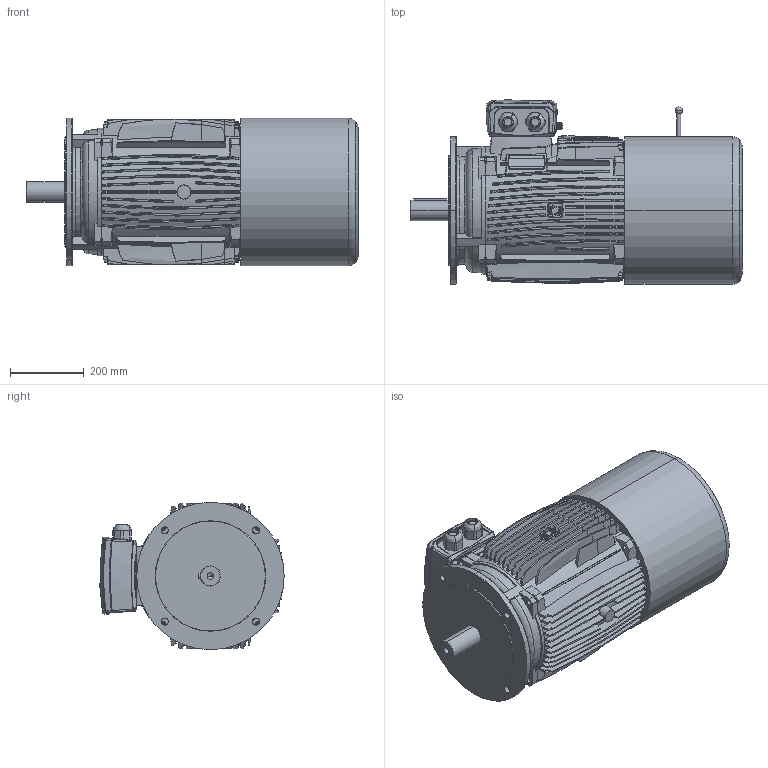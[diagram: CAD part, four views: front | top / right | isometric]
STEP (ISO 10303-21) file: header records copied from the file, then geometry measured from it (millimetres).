
FILE_DESCRIPTION((''),'2;1');
FILE_NAME('200L_ASM','2016-07-20T',('user'),(''),'PRO/ENGINEER BY PARAMETRIC TECHNOLOGY CORPORATION, 2010020','PRO/ENGINEER BY PARAMETRIC TECHNOLOGY CORPORATION, 2010020','');
FILE_SCHEMA(('CONFIG_CONTROL_DESIGN'));
Products named in the file (6): FRA200L; B5200; TBOX200; FCVATDC200; SH200; 200L_ASM
Assembly tree (5 placements, depth 2):
  200L_ASM
    FRA200L
    B5200
    TBOX200
    FCVATDC200
    SH200
Bounding box: 901 x 500.06 x 400 mm (x, y, z)
Volume: 92157542 mm3; surface area: 2822981.1 mm2
Topology: 5 solids, 17 shells, 2160 faces, 6073 edges, 4060 vertices
Faces by surface type: plane 763, cylinder 735, torus 263, bspline 215, cone 158, extrusion 24, sphere 2
Entity records: 82814 total; most frequent: CARTESIAN_POINT 31834, ORIENTED_EDGE 12070, DIRECTION 8568, EDGE_CURVE 6035, VERTEX_POINT 4060, AXIS2_PLACEMENT_3D 3390, B_SPLINE_CURVE_WITH_KNOTS 2837, EDGE_LOOP 2353
